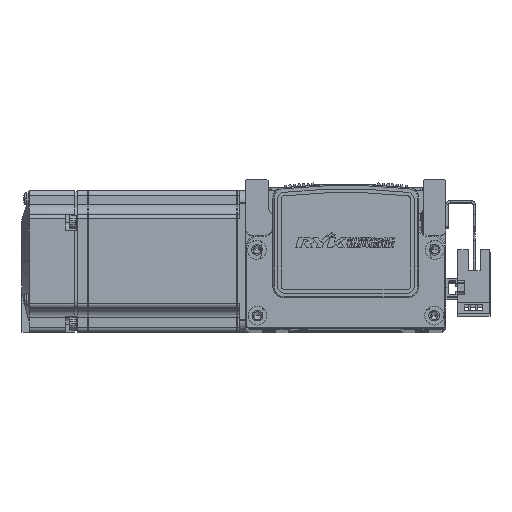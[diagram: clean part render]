
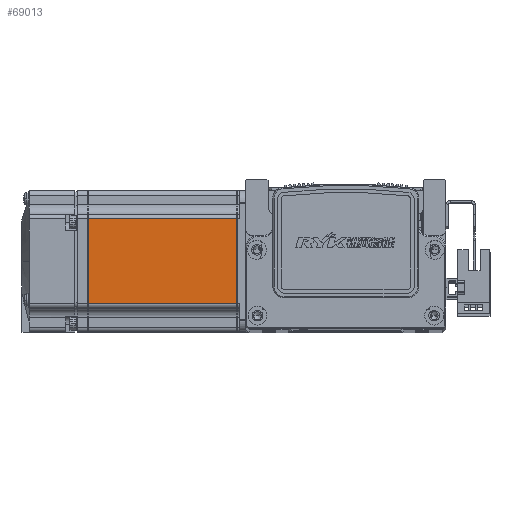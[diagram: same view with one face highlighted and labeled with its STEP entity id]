
A CAD part, top view. The second image highlights one B-rep face of the part: STEP entity #69013.
In plain terms, the highlighted planar face has unit normal (0, 0, 1) as drawn and (0, 0, -1) by its records, which use the part's own axes.
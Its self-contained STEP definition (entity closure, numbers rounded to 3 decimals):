
#4504 = ORIENTED_EDGE ( 'NONE', *, *, #71285, .T. ) ;
#4575 = ORIENTED_EDGE ( 'NONE', *, *, #71282, .T. ) ;
#4599 = ORIENTED_EDGE ( 'NONE', *, *, #71291, .T. ) ;
#4607 = ORIENTED_EDGE ( 'NONE', *, *, #71303, .T. ) ;
#5492 = FACE_OUTER_BOUND ( 'NONE', #43660, .T. ) ;
#14809 = LINE ( 'NONE', #59021, #14950 ) ;
#14821 = LINE ( 'NONE', #58940, #14953 ) ;
#14848 = LINE ( 'NONE', #59004, #14860 ) ;
#14860 = VECTOR ( 'NONE', #58961, 1000. ) ;
#14950 = VECTOR ( 'NONE', #58965, 1000. ) ;
#14953 = VECTOR ( 'NONE', #58942, 1000. ) ;
#15034 = LINE ( 'NONE', #59100, #15124 ) ;
#15124 = VECTOR ( 'NONE', #59048, 1000. ) ;
#17001 = VERTEX_POINT ( 'NONE', #67687 ) ;
#17028 = VERTEX_POINT ( 'NONE', #67697 ) ;
#17100 = VERTEX_POINT ( 'NONE', #67757 ) ;
#17163 = VERTEX_POINT ( 'NONE', #67706 ) ;
#22767 = AXIS2_PLACEMENT_3D ( 'NONE', #48430, #48450, #48444 ) ;
#43660 = EDGE_LOOP ( 'NONE', ( #4607, #4504, #4599, #4575 ) ) ;
#48423 = PLANE ( 'NONE',  #22767 ) ;
#48430 = CARTESIAN_POINT ( 'NONE',  ( -6.5, 25., -30. ) ) ;
#48444 = DIRECTION ( 'NONE',  ( -1., 0., 0. ) ) ;
#48450 = DIRECTION ( 'NONE',  ( 0., 0., -1. ) ) ;
#58940 = CARTESIAN_POINT ( 'NONE',  ( -6.5, -18., -30. ) ) ;
#58942 = DIRECTION ( 'NONE',  ( -1., 0., 0. ) ) ;
#58961 = DIRECTION ( 'NONE',  ( 0., 1., 0. ) ) ;
#58965 = DIRECTION ( 'NONE',  ( 1., 0., 0. ) ) ;
#59004 = CARTESIAN_POINT ( 'NONE',  ( -70.95, 25., -30. ) ) ;
#59021 = CARTESIAN_POINT ( 'NONE',  ( -6.5, 18., -30. ) ) ;
#59048 = DIRECTION ( 'NONE',  ( 0., -1., 0. ) ) ;
#59100 = CARTESIAN_POINT ( 'NONE',  ( -7.75, 25., -30. ) ) ;
#67687 = CARTESIAN_POINT ( 'NONE',  ( -70.95, 18., -30. ) ) ;
#67697 = CARTESIAN_POINT ( 'NONE',  ( -7.75, 18., -30. ) ) ;
#67706 = CARTESIAN_POINT ( 'NONE',  ( -7.75, -18., -30. ) ) ;
#67757 = CARTESIAN_POINT ( 'NONE',  ( -70.95, -18., -30. ) ) ;
#69013 = ADVANCED_FACE ( 'NONE', ( #5492 ), #48423, .T. ) ;
#71282 = EDGE_CURVE ( 'NONE', #17001, #17028, #14809, .T. ) ;
#71285 = EDGE_CURVE ( 'NONE', #17163, #17100, #14821, .T. ) ;
#71291 = EDGE_CURVE ( 'NONE', #17100, #17001, #14848, .T. ) ;
#71303 = EDGE_CURVE ( 'NONE', #17028, #17163, #15034, .T. ) ;
